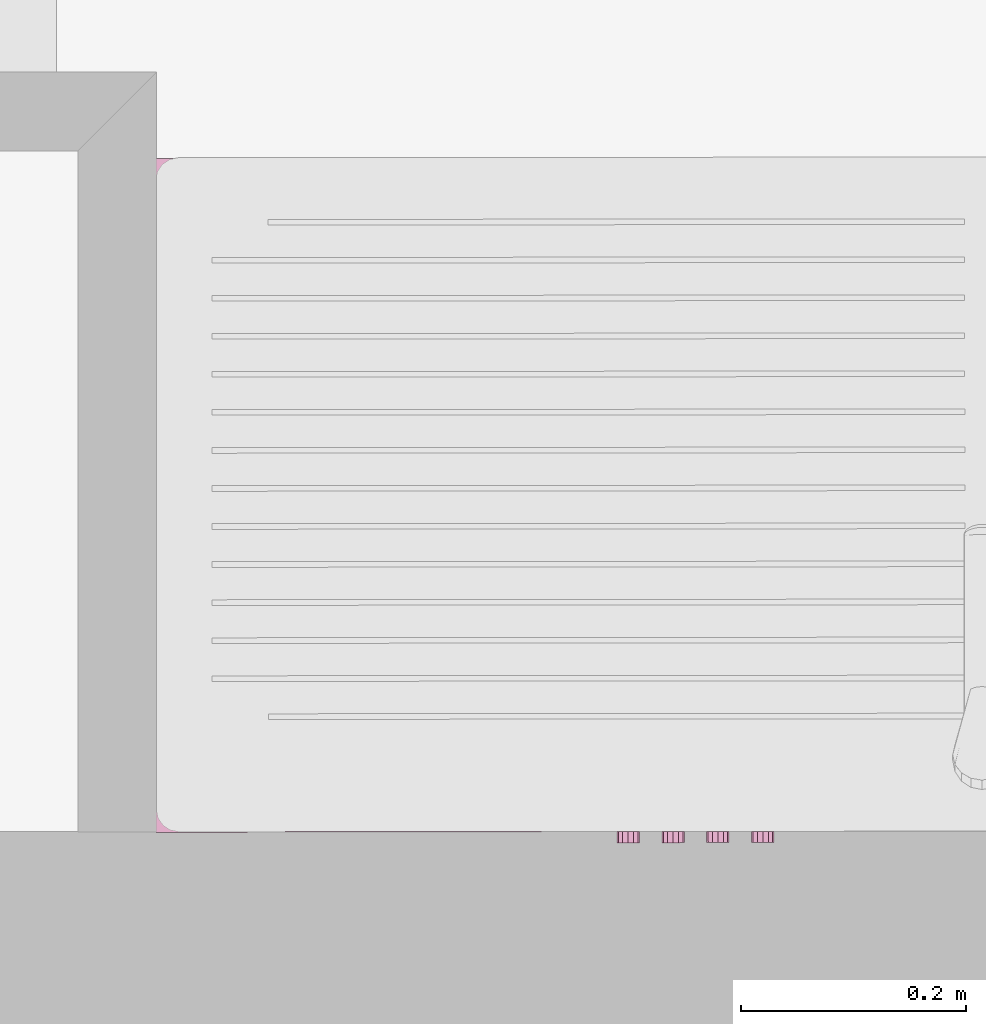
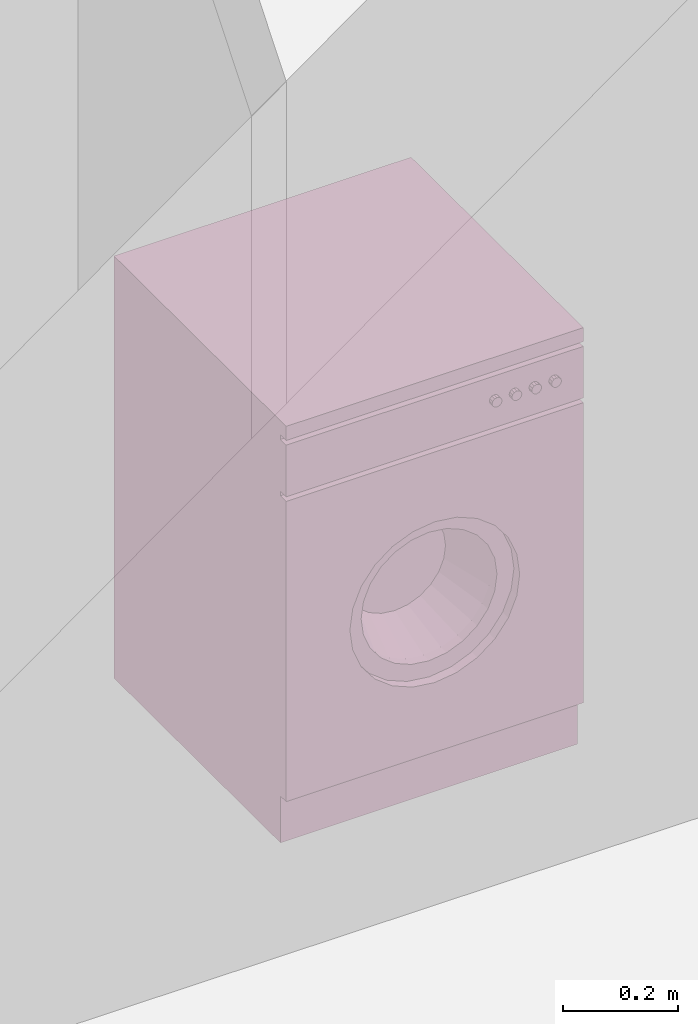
# One storey, part 122 of 164: 1 furnishing.
"""IFC2X3 building model written with IfcOpenShell, lengths in millimetres."""

from ifc_helpers import new_model, entity, si_unit, converted_unit, derived_unit, money_unit, direction, frame, origin_with_axes, place, context, subcontext, project, spatial, open_shell, faceted_brep, surface_model, source, transform, mapped, type_object, element, save


model = new_model("IFC2X3")

# Units and contexts
model_context = context("Model", 3, precision=0.01, world=origin_with_axes(), true_north=direction((0.0, 1.0)))
body_context = subcontext(model_context, "Body", "Model", "MODEL_VIEW")
ifc_project = project(units=[si_unit("LENGTHUNIT", "METRE", prefix="MILLI"), si_unit("AREAUNIT", "SQUARE_METRE"), si_unit("VOLUMEUNIT", "CUBIC_METRE"), converted_unit("PLANEANGLEUNIT", "DEGREE", entity("IfcPlaneAngleMeasure", 0.0174532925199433), si_unit("PLANEANGLEUNIT", "RADIAN"), dimensions=[0, 0, 0, 0, 0, 0, 0]), money_unit("USD"), converted_unit("TIMEUNIT", "Year", entity("IfcTimeMeasure", 31557600.0), si_unit("TIMEUNIT", "SECOND"), dimensions=[0, 0, 1, 0, 0, 0, 0]), si_unit("MASSUNIT", "GRAM", prefix="KILO"), si_unit("THERMODYNAMICTEMPERATUREUNIT", "DEGREE_CELSIUS"), si_unit("LUMINOUSINTENSITYUNIT", "LUMEN"), si_unit("ENERGYUNIT", "JOULE", prefix="MEGA"), derived_unit("THERMALCONDUCTANCEUNIT", [(si_unit("POWERUNIT", "WATT"), 1), (si_unit("LENGTHUNIT", "METRE"), -1), (si_unit("THERMODYNAMICTEMPERATUREUNIT", "KELVIN"), -1)]), derived_unit("SPECIFICHEATCAPACITYUNIT", [(si_unit("ENERGYUNIT", "JOULE"), 1), (si_unit("MASSUNIT", "GRAM", prefix="KILO"), -1), (si_unit("THERMODYNAMICTEMPERATUREUNIT", "KELVIN"), -1)]), derived_unit("MASSDENSITYUNIT", [(si_unit("MASSUNIT", "GRAM", prefix="KILO"), 1), (si_unit("VOLUMEUNIT", "CUBIC_METRE"), -1)])], contexts=[model_context])

# Site, building, storey
site_placement = place(None, origin_with_axes())
site = spatial("IfcSite", under=ifc_project, at=site_placement, Name="Site", CompositionType="ELEMENT")
building_placement = place(site_placement, origin_with_axes())
building = spatial("IfcBuilding", under=site, at=building_placement, Name="Bâtiment", CompositionType="ELEMENT")
storey_placement = place(building_placement, frame((0.0, 0.0, 5750.0), z_axis=(0.0, 0.0, 1.0), x_axis=(1.0, 0.0, 0.0)))
storey = spatial("IfcBuildingStorey", under=building, at=storey_placement, Name="Etage1", CompositionType="ELEMENT", Elevation=5750.0)

# Furnishing
furnishing_element_type = type_object("IfcFurnishingElementType", Name="Machine à laver")
shared_shape = source(origin_with_axes(), body_context, "Body", "SurfaceModel", [
    faceted_brep([(0.0, 20.0, 100.0), (0.0, 0.0, 100.0), (-600.0, 0.0, 100.0), (-600.0, 20.0, 100.0), (0.0, 20.00000000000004, 740.0), (0.0, 0.0, 740.0), (-600.0, 0.0, 740.0), (-471.4285714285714, 0.0, 420.0000000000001), (-465.5872845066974, 0.0, 464.3689791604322), (-448.4614977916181, 0.0, 505.7142857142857), (-421.2183053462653, 0.0, 541.2183053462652), (-385.7142857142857, 0.0, 568.4614977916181), (-344.3689791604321, 0.0, 585.5872845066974), (-300.0000000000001, 0.0, 591.4285714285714), (-255.6310208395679, 0.0, 585.5872845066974), (-214.2857142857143, 0.0, 568.4614977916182), (-178.7816946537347, 0.0, 541.2183053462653), (-151.5385022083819, 0.0, 505.7142857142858), (-134.4127154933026, 0.0, 464.3689791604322), (-128.5714285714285, 0.0, 420.0000000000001), (-134.4127154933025, 0.0, 375.6310208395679), (-151.5385022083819, 0.0, 334.2857142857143), (-178.7816946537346, 0.0, 298.7816946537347), (-214.2857142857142, 0.0, 271.5385022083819), (-255.6310208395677, 0.0, 254.4127154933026), (-299.9999999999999, 0.0, 248.5714285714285), (-344.368979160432, 0.0, 254.4127154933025), (-385.7142857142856, 0.0, 271.5385022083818), (-421.2183053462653, 0.0, 298.7816946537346), (-448.4614977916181, 0.0, 334.2857142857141), (-465.5872845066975, 0.0, 375.6310208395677), (-600.0, 20.00000000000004, 740.0), (-471.4285714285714, 20.00000000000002, 420.0000000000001), (-465.5872845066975, 20.00000000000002, 375.6310208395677), (-448.4614977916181, 20.00000000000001, 334.2857142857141), (-421.2183053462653, 20.00000000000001, 298.7816946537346), (-385.7142857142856, 20.00000000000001, 271.5385022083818), (-344.368979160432, 20.00000000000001, 254.4127154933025), (-299.9999999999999, 20.00000000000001, 248.5714285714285), (-255.6310208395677, 20.00000000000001, 254.4127154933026), (-214.2857142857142, 20.00000000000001, 271.5385022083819), (-178.7816946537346, 20.00000000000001, 298.7816946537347), (-151.5385022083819, 20.00000000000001, 334.2857142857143), (-134.4127154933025, 20.00000000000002, 375.6310208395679), (-128.5714285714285, 20.00000000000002, 420.0000000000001), (-134.4127154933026, 20.00000000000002, 464.3689791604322), (-151.5385022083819, 20.00000000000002, 505.7142857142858), (-178.7816946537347, 20.00000000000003, 541.2183053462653), (-214.2857142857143, 20.00000000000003, 568.4614977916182), (-255.6310208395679, 20.00000000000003, 585.5872845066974), (-300.0000000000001, 20.00000000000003, 591.4285714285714), (-344.3689791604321, 20.00000000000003, 585.5872845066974), (-385.7142857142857, 20.00000000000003, 568.4614977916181), (-421.2183053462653, 20.00000000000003, 541.2183053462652), (-448.4614977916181, 20.00000000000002, 505.7142857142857), (-465.5872845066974, 20.00000000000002, 464.3689791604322)], [[[0, 1, 2, 3]], [[4, 5, 1, 0]], [[1, 5, 6, 2], [7, 8, 9, 10, 11, 12, 13, 14, 15, 16, 17, 18, 19, 20, 21, 22, 23, 24, 25, 26, 27, 28, 29, 30]], [[3, 2, 6, 31]], [[0, 3, 31, 4], [32, 33, 34, 35, 36, 37, 38, 39, 40, 41, 42, 43, 44, 45, 46, 47, 48, 49, 50, 51, 52, 53, 54, 55]], [[31, 6, 5, 4]], [[55, 8, 7, 32]], [[54, 9, 8, 55]], [[53, 10, 9, 54]], [[52, 11, 10, 53]], [[51, 12, 11, 52]], [[50, 13, 12, 51]], [[49, 14, 13, 50]], [[48, 15, 14, 49]], [[47, 16, 15, 48]], [[46, 17, 16, 47]], [[45, 18, 17, 46]], [[44, 19, 18, 45]], [[43, 20, 19, 44]], [[42, 21, 20, 43]], [[41, 22, 21, 42]], [[40, 23, 22, 41]], [[39, 24, 23, 40]], [[38, 25, 24, 39]], [[37, 26, 25, 38]], [[36, 27, 26, 37]], [[35, 28, 27, 36]], [[34, 29, 28, 35]], [[33, 30, 29, 34]], [[32, 7, 30, 33]]]),
    faceted_brep([(-471.4285714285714, 40.00000000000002, 420.0000000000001), (-471.4285714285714, 20.00000000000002, 420.0000000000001), (-465.5872845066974, 20.00000000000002, 464.3689791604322), (-465.5872845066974, 40.00000000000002, 464.3689791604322), (-465.5872845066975, 40.00000000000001, 375.6310208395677), (-465.5872845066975, 20.00000000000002, 375.6310208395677), (-448.4614977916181, 20.00000000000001, 334.2857142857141), (-421.2183053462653, 20.00000000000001, 298.7816946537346), (-385.7142857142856, 20.00000000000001, 271.5385022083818), (-344.368979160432, 20.00000000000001, 254.4127154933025), (-299.9999999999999, 20.00000000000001, 248.5714285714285), (-255.6310208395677, 20.00000000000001, 254.4127154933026), (-214.2857142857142, 20.00000000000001, 271.5385022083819), (-178.7816946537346, 20.00000000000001, 298.7816946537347), (-151.5385022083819, 20.00000000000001, 334.2857142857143), (-134.4127154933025, 20.00000000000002, 375.6310208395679), (-128.5714285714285, 20.00000000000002, 420.0000000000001), (-134.4127154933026, 20.00000000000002, 464.3689791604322), (-151.5385022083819, 20.00000000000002, 505.7142857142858), (-178.7816946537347, 20.00000000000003, 541.2183053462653), (-214.2857142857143, 20.00000000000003, 568.4614977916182), (-255.6310208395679, 20.00000000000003, 585.5872845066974), (-300.0000000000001, 20.00000000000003, 591.4285714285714), (-344.3689791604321, 20.00000000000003, 585.5872845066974), (-385.7142857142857, 20.00000000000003, 568.4614977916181), (-421.2183053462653, 20.00000000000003, 541.2183053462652), (-448.4614977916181, 20.00000000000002, 505.7142857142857), (-437.1428571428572, 20.00000000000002, 420.0000000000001), (-432.469827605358, 20.00000000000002, 455.4951833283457), (-418.7691982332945, 20.00000000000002, 488.5714285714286), (-396.9746442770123, 20.00000000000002, 516.9746442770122), (-368.5714285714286, 20.00000000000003, 538.7691982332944), (-335.4951833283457, 20.00000000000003, 552.469827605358), (-300.0000000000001, 20.00000000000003, 557.1428571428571), (-264.5048166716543, 20.00000000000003, 552.469827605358), (-231.4285714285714, 20.00000000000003, 538.7691982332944), (-203.0253557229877, 20.00000000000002, 516.9746442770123), (-181.2308017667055, 20.00000000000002, 488.5714285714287), (-167.530172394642, 20.00000000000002, 455.4951833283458), (-162.8571428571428, 20.00000000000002, 420.0000000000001), (-167.530172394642, 20.00000000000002, 384.5048166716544), (-181.2308017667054, 20.00000000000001, 351.4285714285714), (-203.0253557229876, 20.00000000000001, 323.0253557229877), (-231.4285714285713, 20.00000000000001, 301.2308017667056), (-264.5048166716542, 20.00000000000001, 287.530172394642), (-299.9999999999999, 20.00000000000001, 282.8571428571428), (-335.4951833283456, 20.00000000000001, 287.530172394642), (-368.5714285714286, 20.00000000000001, 301.2308017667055), (-396.9746442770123, 20.00000000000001, 323.0253557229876), (-418.7691982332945, 20.00000000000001, 351.4285714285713), (-432.469827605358, 20.00000000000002, 384.5048166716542), (-448.4614977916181, 40.00000000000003, 505.7142857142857), (-421.2183053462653, 40.00000000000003, 541.2183053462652), (-385.7142857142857, 40.00000000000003, 568.4614977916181), (-344.3689791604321, 40.00000000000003, 585.5872845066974), (-300.0000000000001, 40.00000000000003, 591.4285714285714), (-255.6310208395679, 40.00000000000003, 585.5872845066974), (-214.2857142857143, 40.00000000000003, 568.4614977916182), (-178.7816946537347, 40.00000000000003, 541.2183053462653), (-151.5385022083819, 40.00000000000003, 505.7142857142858), (-134.4127154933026, 40.00000000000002, 464.3689791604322), (-128.5714285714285, 40.00000000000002, 420.0000000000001), (-134.4127154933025, 40.00000000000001, 375.6310208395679), (-151.5385022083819, 40.00000000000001, 334.2857142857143), (-178.7816946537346, 40.00000000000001, 298.7816946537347), (-214.2857142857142, 40.00000000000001, 271.5385022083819), (-255.6310208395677, 40.00000000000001, 254.4127154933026), (-299.9999999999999, 40.00000000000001, 248.5714285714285), (-344.368979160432, 40.00000000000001, 254.4127154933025), (-385.7142857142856, 40.00000000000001, 271.5385022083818), (-421.2183053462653, 40.00000000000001, 298.7816946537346), (-448.4614977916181, 40.00000000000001, 334.2857142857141), (-437.1428571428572, 40.00000000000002, 420.0000000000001), (-432.469827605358, 40.00000000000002, 384.5048166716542), (-418.7691982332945, 40.00000000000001, 351.4285714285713), (-396.9746442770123, 40.00000000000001, 323.0253557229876), (-368.5714285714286, 40.00000000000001, 301.2308017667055), (-335.4951833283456, 40.00000000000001, 287.530172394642), (-299.9999999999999, 40.00000000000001, 282.8571428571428), (-264.5048166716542, 40.00000000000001, 287.530172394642), (-231.4285714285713, 40.00000000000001, 301.2308017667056), (-203.0253557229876, 40.00000000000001, 323.0253557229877), (-181.2308017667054, 40.00000000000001, 351.4285714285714), (-167.530172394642, 40.00000000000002, 384.5048166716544), (-162.8571428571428, 40.00000000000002, 420.0000000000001), (-167.530172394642, 40.00000000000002, 455.4951833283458), (-181.2308017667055, 40.00000000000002, 488.5714285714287), (-203.0253557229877, 40.00000000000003, 516.9746442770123), (-231.4285714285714, 40.00000000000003, 538.7691982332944), (-264.5048166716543, 40.00000000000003, 552.469827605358), (-300.0000000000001, 40.00000000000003, 557.1428571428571), (-335.4951833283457, 40.00000000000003, 552.469827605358), (-368.5714285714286, 40.00000000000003, 538.7691982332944), (-396.9746442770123, 40.00000000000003, 516.9746442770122), (-418.7691982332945, 40.00000000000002, 488.5714285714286), (-432.469827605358, 40.00000000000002, 455.4951833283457)], [[[0, 1, 2, 3]], [[4, 5, 1, 0]], [[1, 5, 6, 7, 8, 9, 10, 11, 12, 13, 14, 15, 16, 17, 18, 19, 20, 21, 22, 23, 24, 25, 26, 2], [27, 28, 29, 30, 31, 32, 33, 34, 35, 36, 37, 38, 39, 40, 41, 42, 43, 44, 45, 46, 47, 48, 49, 50]], [[3, 2, 26, 51]], [[0, 3, 51, 52, 53, 54, 55, 56, 57, 58, 59, 60, 61, 62, 63, 64, 65, 66, 67, 68, 69, 70, 71, 4], [72, 73, 74, 75, 76, 77, 78, 79, 80, 81, 82, 83, 84, 85, 86, 87, 88, 89, 90, 91, 92, 93, 94, 95]], [[71, 6, 5, 4]], [[70, 7, 6, 71]], [[69, 8, 7, 70]], [[68, 9, 8, 69]], [[67, 10, 9, 68]], [[66, 11, 10, 67]], [[65, 12, 11, 66]], [[64, 13, 12, 65]], [[63, 14, 13, 64]], [[62, 15, 14, 63]], [[61, 16, 15, 62]], [[60, 17, 16, 61]], [[59, 18, 17, 60]], [[58, 19, 18, 59]], [[57, 20, 19, 58]], [[56, 21, 20, 57]], [[55, 22, 21, 56]], [[54, 23, 22, 55]], [[53, 24, 23, 54]], [[52, 25, 24, 53]], [[51, 26, 25, 52]], [[95, 28, 27, 72]], [[94, 29, 28, 95]], [[93, 30, 29, 94]], [[92, 31, 30, 93]], [[91, 32, 31, 92]], [[90, 33, 32, 91]], [[89, 34, 33, 90]], [[88, 35, 34, 89]], [[87, 36, 35, 88]], [[86, 37, 36, 87]], [[85, 38, 37, 86]], [[84, 39, 38, 85]], [[83, 40, 39, 84]], [[82, 41, 40, 83]], [[81, 42, 41, 82]], [[80, 43, 42, 81]], [[79, 44, 43, 80]], [[78, 45, 44, 79]], [[77, 46, 45, 78]], [[76, 47, 46, 77]], [[75, 48, 47, 76]], [[74, 49, 48, 75]], [[73, 50, 49, 74]], [[72, 27, 50, 73]]]),
    surface_model("IfcShellBasedSurfaceModel", [(-264.5048166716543, 39.99999999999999, 552.469827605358), (-273.3786125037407, 140.0, 519.3523707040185), (-300.0, 140.0, 522.8571428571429), (-300.0, 39.99999999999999, 557.1428571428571), (-231.4285714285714, 39.99999999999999, 538.7691982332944), (-248.5714285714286, 140.0, 509.0768986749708), (-227.2690167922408, 140.0, 492.7309832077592), (-210.9231013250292, 140.0, 471.4285714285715), (-200.6476292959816, 140.0, 446.6213874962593), (-197.1428571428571, 140.0, 420.0000000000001), (-200.6476292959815, 140.0, 393.3786125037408), (-210.9231013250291, 140.0, 368.5714285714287), (-227.2690167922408, 140.0, 347.2690167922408), (-248.5714285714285, 140.0, 330.9231013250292), (-273.3786125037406, 140.0, 320.6476292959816), (-299.9999999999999, 140.0, 317.1428571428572), (-326.6213874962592, 140.0, 320.6476292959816), (-351.4285714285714, 140.0, 330.9231013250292), (-372.7309832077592, 140.0, 347.2690167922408), (-389.0768986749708, 140.0, 368.5714285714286), (-399.3523707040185, 140.0, 393.3786125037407), (-402.8571428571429, 140.0, 420.0), (-399.3523707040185, 140.0, 446.6213874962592), (-389.0768986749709, 140.0, 471.4285714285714), (-372.7309832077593, 140.0, 492.7309832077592), (-351.4285714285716, 140.0, 509.0768986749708), (-326.6213874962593, 140.0, 519.3523707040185), (-335.4951833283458, 39.99999999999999, 552.469827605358), (-203.0253557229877, 39.99999999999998, 516.9746442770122), (-181.2308017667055, 39.99999999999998, 488.5714285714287), (-167.5301723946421, 39.99999999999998, 455.4951833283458), (-162.8571428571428, 39.99999999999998, 420.0000000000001), (-167.530172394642, 39.99999999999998, 384.5048166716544), (-181.2308017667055, 39.99999999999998, 351.4285714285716), (-203.0253557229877, 39.99999999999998, 323.0253557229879), (-231.4285714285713, 39.99999999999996, 301.2308017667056), (-264.5048166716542, 39.99999999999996, 287.5301723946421), (-299.9999999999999, 39.99999999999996, 282.8571428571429), (-335.4951833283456, 39.99999999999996, 287.5301723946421), (-368.5714285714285, 39.99999999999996, 301.2308017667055), (-396.9746442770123, 39.99999999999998, 323.0253557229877), (-418.7691982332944, 39.99999999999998, 351.4285714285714), (-432.469827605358, 39.99999999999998, 384.5048166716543), (-437.1428571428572, 39.99999999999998, 419.9999999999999), (-432.469827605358, 39.99999999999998, 455.4951833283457), (-418.7691982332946, 39.99999999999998, 488.5714285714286), (-396.9746442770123, 39.99999999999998, 516.9746442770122), (-368.5714285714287, 39.99999999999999, 538.7691982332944)], [open_shell([[[0, 1, 2, 3]], [[4, 5, 1, 0]], [[2, 1, 5, 6, 7, 8, 9, 10, 11, 12, 13, 14, 15, 16, 17, 18, 19, 20, 21, 22, 23, 24, 25, 26]], [[3, 2, 26, 27]], [[28, 6, 5, 4]], [[29, 7, 6, 28]], [[30, 8, 7, 29]], [[31, 9, 8, 30]], [[32, 10, 9, 31]], [[33, 11, 10, 32]], [[34, 12, 11, 33]], [[35, 13, 12, 34]], [[36, 14, 13, 35]], [[37, 15, 14, 36]], [[38, 16, 15, 37]], [[39, 17, 16, 38]], [[40, 18, 17, 39]], [[41, 19, 18, 40]], [[42, 20, 19, 41]], [[43, 21, 20, 42]], [[44, 22, 21, 43]], [[45, 23, 22, 44]], [[46, 24, 23, 45]], [[47, 25, 24, 46]], [[27, 26, 25, 47]]])]),
    surface_model("IfcShellBasedSurfaceModel", [(0.0, 20.0, 100.0), (0.0, 600.0, 99.99999999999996), (0.0, 600.0, 870.0), (0.0, 20.00000000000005, 870.0)], [open_shell([[[0, 1, 2, 3]]])]),
    surface_model("IfcShellBasedSurfaceModel", [(-600.0, 19.99999999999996, 100.0), (-600.0, 599.9999999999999, 99.99999999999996), (-600.0, 599.9999999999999, 870.0), (-600.0, 20.00000000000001, 870.0)], [open_shell([[[0, 1, 2, 3]]])]),
    surface_model("IfcShellBasedSurfaceModel", [(0.0, 600.0, 100.0), (-600.0, 600.0, 100.0), (-600.0, 600.0, 870.0), (0.0, 600.0, 870.0)], [open_shell([[[0, 1, 2, 3]]])]),
    faceted_brep([(0.0, 20.0, 0.0), (0.0, 20.0, 100.0), (-600.0, 20.0, 100.0), (-600.0, 20.0, 0.0), (0.0, 600.0, 0.0), (0.0, 600.0, 100.0), (-600.0, 600.0, 100.0), (-600.0, 600.0, 0.0)], [[[0, 1, 2, 3]], [[4, 5, 1, 0]], [[1, 5, 6, 2]], [[3, 2, 6, 7]], [[0, 3, 7, 4]], [[7, 6, 5, 4]]]),
    faceted_brep([(0.0, 20.0, 750.0), (0.0, 0.0, 750.0), (-600.0, 0.0, 750.0), (-600.0, 20.0, 750.0), (0.0, 20.00000000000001, 860.0), (0.0, 0.0, 860.0), (-600.0, 0.0, 860.0), (-600.0, 20.00000000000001, 860.0)], [[[0, 1, 2, 3]], [[4, 5, 1, 0]], [[1, 5, 6, 2]], [[3, 2, 6, 7]], [[0, 3, 7, 4]], [[7, 6, 5, 4]]]),
    surface_model("IfcShellBasedSurfaceModel", [(0.0, 20.0, 740.0), (-600.0, 20.0, 740.0), (-600.0, 20.00000000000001, 870.0), (0.0, 20.00000000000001, 870.0)], [open_shell([[[0, 1, 2, 3]]])]),
    faceted_brep([(0.0, 0.0, 870.0), (0.0, 0.0, 900.0), (-600.0, 0.0, 900.0), (-600.0, 0.0, 870.0), (0.0, 600.0, 870.0), (0.0, 600.0, 900.0), (-600.0, 600.0, 900.0), (-600.0, 600.0, 870.0)], [[[0, 1, 2, 3]], [[4, 5, 1, 0]], [[1, 5, 6, 2]], [[3, 2, 6, 7]], [[0, 3, 7, 4]], [[7, 6, 5, 4]]]),
    faceted_brep([(-68.66025403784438, 0.0, 804.9999999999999), (-69.99999999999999, 0.0, 809.9999999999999), (-68.66025403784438, 0.0, 815.0), (-65.0, 0.0, 818.6602540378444), (-60.0, 0.0, 820.0), (-55.0, 0.0, 818.6602540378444), (-51.33974596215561, 0.0, 815.0), (-49.99999999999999, 0.0, 809.9999999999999), (-51.33974596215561, 0.0, 804.9999999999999), (-54.99999999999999, 0.0, 801.3397459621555), (-59.99999999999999, 0.0, 799.9999999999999), (-64.99999999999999, 0.0, 801.3397459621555), (-68.66025403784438, -10.0, 804.9999999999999), (-69.99999999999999, -10.0, 809.9999999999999), (-68.66025403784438, -10.0, 815.0), (-65.0, -10.0, 818.6602540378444), (-60.0, -10.0, 820.0), (-55.0, -10.0, 818.6602540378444), (-51.33974596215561, -10.0, 815.0), (-49.99999999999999, -10.0, 809.9999999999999), (-51.33974596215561, -10.0, 804.9999999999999), (-54.99999999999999, -10.0, 801.3397459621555), (-59.99999999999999, -10.0, 799.9999999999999), (-64.99999999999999, -10.0, 801.3397459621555)], [[[0, 1, 2, 3, 4, 5, 6, 7, 8, 9, 10, 11]], [[0, 12, 13, 1]], [[1, 13, 14, 2]], [[2, 14, 15, 3]], [[3, 15, 16, 4]], [[4, 16, 17, 5]], [[5, 17, 18, 6]], [[6, 18, 19, 7]], [[7, 19, 20, 8]], [[8, 20, 21, 9]], [[9, 21, 22, 10]], [[10, 22, 23, 11]], [[11, 23, 12, 0]], [[12, 23, 22, 21, 20, 19, 18, 17, 16, 15, 14, 13]]]),
    faceted_brep([(-108.6602540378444, 0.0, 804.9999999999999), (-110.0, 0.0, 809.9999999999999), (-108.6602540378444, 0.0, 815.0), (-105.0, 0.0, 818.6602540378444), (-100.0, 0.0, 820.0), (-95.0, 0.0, 818.6602540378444), (-91.33974596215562, 0.0, 815.0), (-90.00000000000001, 0.0, 809.9999999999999), (-91.33974596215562, 0.0, 804.9999999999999), (-95.0, 0.0, 801.3397459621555), (-99.99999999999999, 0.0, 799.9999999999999), (-105.0, 0.0, 801.3397459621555), (-108.6602540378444, -10.0, 804.9999999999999), (-110.0, -10.0, 809.9999999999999), (-108.6602540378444, -10.0, 815.0), (-105.0, -10.0, 818.6602540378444), (-100.0, -10.0, 820.0), (-95.0, -10.0, 818.6602540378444), (-91.33974596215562, -10.0, 815.0), (-90.00000000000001, -10.0, 809.9999999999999), (-91.33974596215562, -10.0, 804.9999999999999), (-95.0, -10.0, 801.3397459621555), (-99.99999999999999, -10.0, 799.9999999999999), (-105.0, -10.0, 801.3397459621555)], [[[0, 1, 2, 3, 4, 5, 6, 7, 8, 9, 10, 11]], [[0, 12, 13, 1]], [[1, 13, 14, 2]], [[2, 14, 15, 3]], [[3, 15, 16, 4]], [[4, 16, 17, 5]], [[5, 17, 18, 6]], [[6, 18, 19, 7]], [[7, 19, 20, 8]], [[8, 20, 21, 9]], [[9, 21, 22, 10]], [[10, 22, 23, 11]], [[11, 23, 12, 0]], [[12, 23, 22, 21, 20, 19, 18, 17, 16, 15, 14, 13]]]),
    faceted_brep([(-148.6602540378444, 0.0, 804.9999999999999), (-150.0, 0.0, 809.9999999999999), (-148.6602540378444, 0.0, 815.0), (-145.0, 0.0, 818.6602540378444), (-140.0, 0.0, 820.0), (-135.0, 0.0, 818.6602540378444), (-131.3397459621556, 0.0, 815.0), (-130.0, 0.0, 809.9999999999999), (-131.3397459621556, 0.0, 804.9999999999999), (-135.0, 0.0, 801.3397459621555), (-140.0, 0.0, 799.9999999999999), (-145.0, 0.0, 801.3397459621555), (-148.6602540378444, -10.0, 804.9999999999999), (-150.0, -10.0, 809.9999999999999), (-148.6602540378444, -10.0, 815.0), (-145.0, -10.0, 818.6602540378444), (-140.0, -10.0, 820.0), (-135.0, -10.0, 818.6602540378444), (-131.3397459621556, -10.0, 815.0), (-130.0, -10.0, 809.9999999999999), (-131.3397459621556, -10.0, 804.9999999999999), (-135.0, -10.0, 801.3397459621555), (-140.0, -10.0, 799.9999999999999), (-145.0, -10.0, 801.3397459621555)], [[[0, 1, 2, 3, 4, 5, 6, 7, 8, 9, 10, 11]], [[0, 12, 13, 1]], [[1, 13, 14, 2]], [[2, 14, 15, 3]], [[3, 15, 16, 4]], [[4, 16, 17, 5]], [[5, 17, 18, 6]], [[6, 18, 19, 7]], [[7, 19, 20, 8]], [[8, 20, 21, 9]], [[9, 21, 22, 10]], [[10, 22, 23, 11]], [[11, 23, 12, 0]], [[12, 23, 22, 21, 20, 19, 18, 17, 16, 15, 14, 13]]]),
    faceted_brep([(-188.6602540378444, 0.0, 804.9999999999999), (-190.0, 0.0, 809.9999999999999), (-188.6602540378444, 0.0, 815.0), (-185.0, 0.0, 818.6602540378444), (-180.0, 0.0, 820.0), (-175.0, 0.0, 818.6602540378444), (-171.3397459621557, 0.0, 815.0), (-170.0, 0.0, 809.9999999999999), (-171.3397459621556, 0.0, 804.9999999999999), (-175.0, 0.0, 801.3397459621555), (-180.0, 0.0, 799.9999999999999), (-185.0, 0.0, 801.3397459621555), (-188.6602540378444, -10.0, 804.9999999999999), (-190.0, -10.0, 809.9999999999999), (-188.6602540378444, -10.0, 815.0), (-185.0, -10.0, 818.6602540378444), (-180.0, -10.0, 820.0), (-175.0, -10.0, 818.6602540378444), (-171.3397459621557, -10.0, 815.0), (-170.0, -10.0, 809.9999999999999), (-171.3397459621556, -10.0, 804.9999999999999), (-175.0, -10.0, 801.3397459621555), (-180.0, -10.0, 799.9999999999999), (-185.0, -10.0, 801.3397459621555)], [[[0, 1, 2, 3, 4, 5, 6, 7, 8, 9, 10, 11]], [[0, 12, 13, 1]], [[1, 13, 14, 2]], [[2, 14, 15, 3]], [[3, 15, 16, 4]], [[4, 16, 17, 5]], [[5, 17, 18, 6]], [[6, 18, 19, 7]], [[7, 19, 20, 8]], [[8, 20, 21, 9]], [[9, 21, 22, 10]], [[10, 22, 23, 11]], [[11, 23, 12, 0]], [[12, 23, 22, 21, 20, 19, 18, 17, 16, 15, 14, 13]]]),
])
furnishing_placement = place(storey_placement, frame((2227181.221633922, -632333.3630676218, 0.0), z_axis=(0.0, 0.0, 1.0), x_axis=(0.9999985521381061, 0.001701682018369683, 0.0)))
element("IfcFurnishingElement", 1, at=furnishing_placement, inside=storey, type_object=furnishing_element_type, Name="Obj.-019", context=body_context, shape_type="MappedRepresentation", body=[
    mapped(shared_shape, transform((0.0, 0.0, 0.0))),
])

save(model, "model.ifc")
